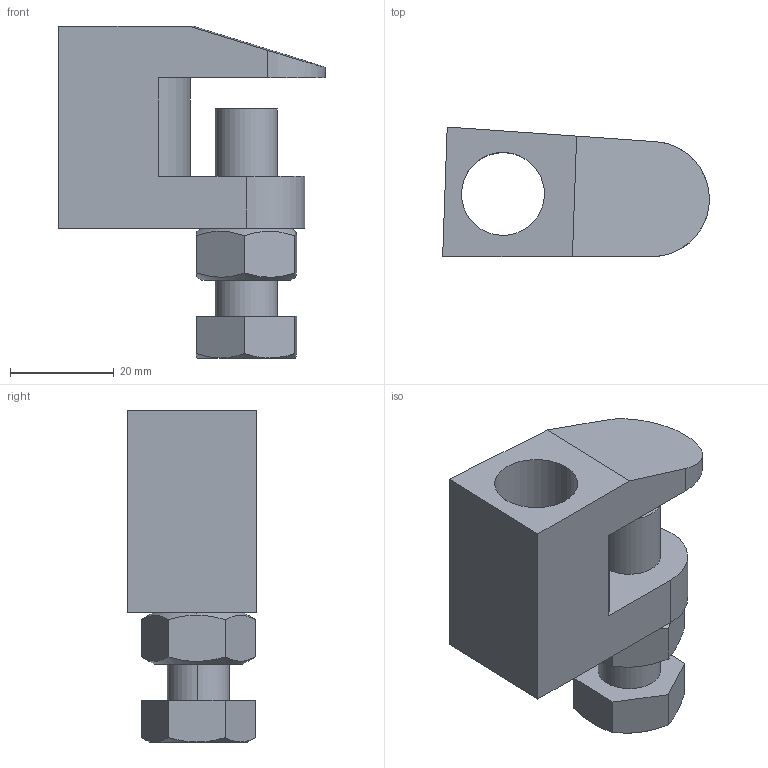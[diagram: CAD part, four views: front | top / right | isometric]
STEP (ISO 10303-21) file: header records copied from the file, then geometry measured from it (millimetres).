
FILE_DESCRIPTION(('TurboCAD Mac Pro'),'Build 980');
FILE_NAME('P2898-62.stp',' ',(''),(''),'ACIS Interop','IMSI','TurboCAD Mac Pro BY IMSI, INCORPORATED');
FILE_SCHEMA(('automotive_design'));
Length unit declared in the file: inch
Products named in the file (3): 1; 2; 3
Bounding box: 51.41 x 24.98 x 64 mm (x, y, z)
Volume: 30555.2 mm3; surface area: 13104.5 mm2
Topology: 3 solids, 3 shells, 46 faces, 111 edges, 72 vertices
Faces by surface type: plane 25, cylinder 11, cone 10
Entity records: 1761 total; most frequent: CARTESIAN_POINT 288, ORIENTED_EDGE 222, DIRECTION 213, EDGE_CURVE 111, AXIS2_PLACEMENT_3D 81, VERTEX_POINT 72, EDGE_LOOP 53, LINE 51
